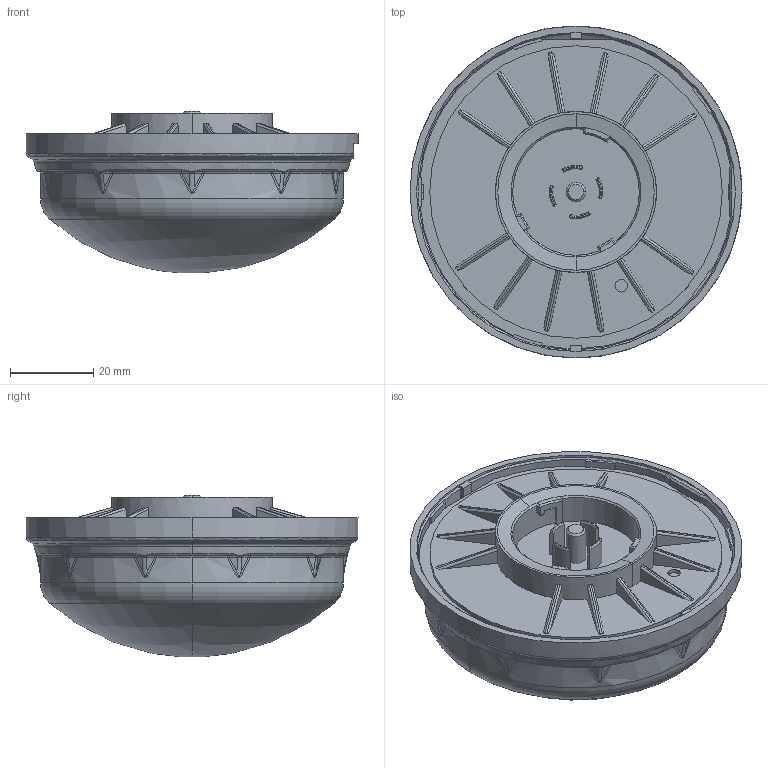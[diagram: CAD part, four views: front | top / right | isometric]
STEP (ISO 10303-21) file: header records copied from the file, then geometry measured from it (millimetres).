
FILE_DESCRIPTION((''),'2;1');
FILE_NAME('15013203Z_DMEC_79-7X38-5_COMCAP','2019-04-15T13:12:10',('emanuel.wild'),(''),'CREO PARAMETRIC BY PTC INC, 2017380','CREO PARAMETRIC BY PTC INC, 2017380','');
FILE_SCHEMA(('AUTOMOTIVE_DESIGN { 1 0 10303 214 1 1 1 1 }'));
Length unit declared in the file: millimetre
Products named in the file (1): 15013203Z_DMEC_79-7X38-5_COMCAP
Bounding box: 79.7 x 79.7 x 38.83 mm (x, y, z)
Volume: 101347.3 mm3; surface area: 27054.5 mm2
Topology: 1 solids, 5 shells, 744 faces, 2013 edges, 1259 vertices
Faces by surface type: plane 335, cylinder 182, bspline 100, torus 62, cone 47, sphere 18
Entity records: 32662 total; most frequent: CARTESIAN_POINT 14320, ORIENTED_EDGE 3990, DIRECTION 3539, EDGE_CURVE 1995, AXIS2_PLACEMENT_3D 1276, VERTEX_POINT 1259, VECTOR 987, LINE 987
